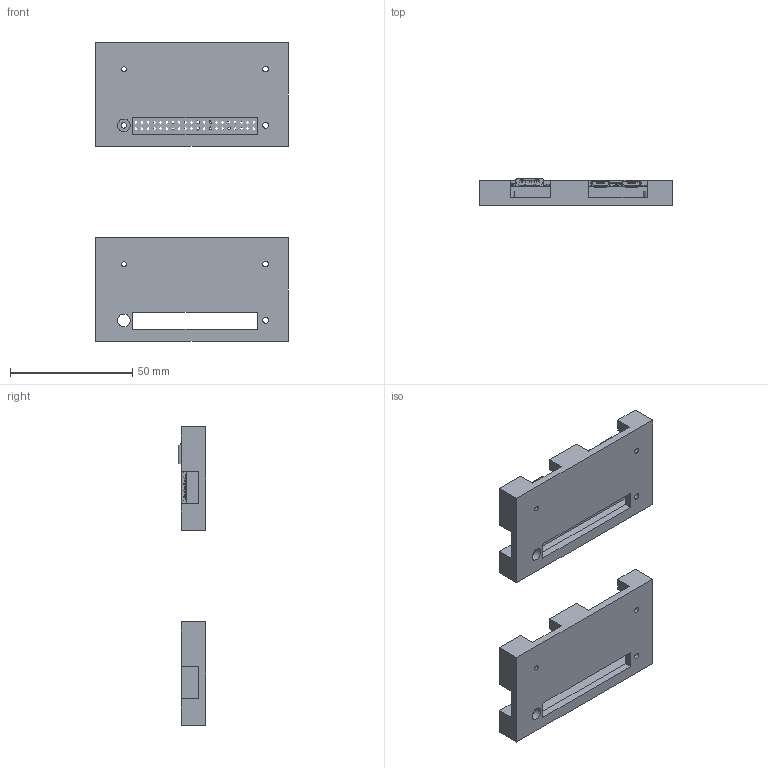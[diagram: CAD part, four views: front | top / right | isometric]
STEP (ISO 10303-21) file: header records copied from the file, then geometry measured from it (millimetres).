
FILE_DESCRIPTION(/* description */ ('STEP AP242 Edition 2','CAx-IF Rec.Pracs.---Representation and Presentation of Product Manufacturing Information (PMI)---4.0---2014-10-13','CAx-IF Rec.Pracs.---3D Tessellated Geometry---0.4---2014-09-14','2;1','CAx-IF Rec.Pracs.---User Defined Attributes---1.5---2016-08-15'),/* implementation_level */ '2;1');
FILE_NAME(/* name */ 'Raspberry Pi Zero+mount',/* time_stamp */ '2026-02-01T16:55:20Z',/* author */ (''),/* organization */ (''),/* preprocessor_version */ 'ST-DEVELOPER v20',/* originating_system */ 'ONSHAPE BY PTC INC, 1.210',/* authorisation */ ' ');
FILE_SCHEMA (('AP242_MANAGED_MODEL_BASED_3D_ENGINEERING_MIM_LF { 1 0 10303 442 3 1 4 }'));
Products named in the file (442): Part 1; Part 2; id8; id11; id14; id17; id20; id23; id26; id29; id32; id35; id38; id41; id44; id47; id50; id53; id56; id59; id62; id65; id68; id71; id74; id77; id80; id83; id86; id89; id92; id95; id98; id101; id104; id107; id110; id113; id116; id119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
Bounding box: 78.55 x 11.05 x 122.03 mm (x, y, z)
Volume: 28773.2 mm3; surface area: 27694.1 mm2
Topology: 3 solids, 442 shells, 515 faces, 200 edges, 136 vertices
Faces by surface type: other 439, plane 60, cylinder 16
Full cylindrical faces by diameter (mm): 1.958 x2, 2.221 x1, 2.285 x2, 2.35 x2, 5.109 x2, 5.167 x3, 5.169 x2, 5.276 x2
Entity records: 12401 total; most frequent: DIRECTION 1244, CARTESIAN_POINT 822, AXIS2_PLACEMENT_3D 550, SHAPE_REPRESENTATION_RELATIONSHIP 442, SHAPE_DEFINITION_REPRESENTATION 442, SHAPE_REPRESENTATION 442, MECHANICAL_DESIGN_GEOMETRIC_PRESENTATION_REPRESENTATION 442, UNCERTAINTY_MEASURE_WITH_UNIT 442
